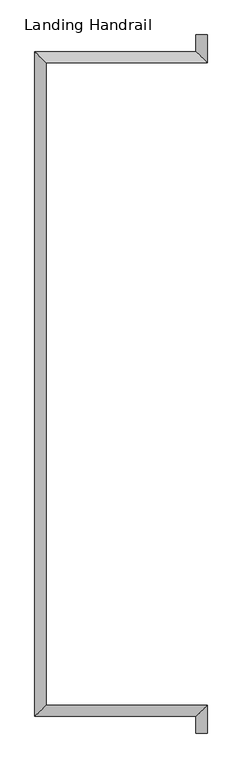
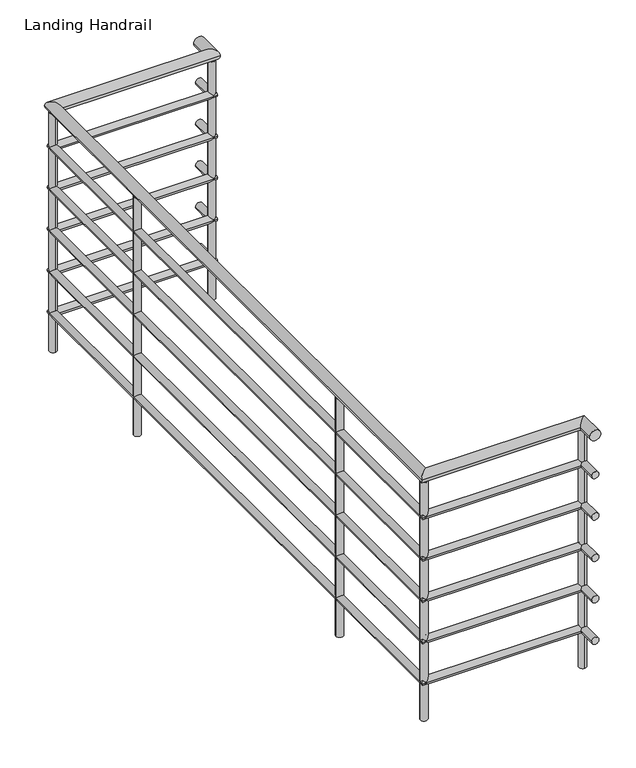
"""IFC4 building model written with IfcOpenShell, lengths in millimetres: railing geometry, Landing Handrail."""

from ifc_helpers import new_model, si_unit, point, frame, frame_2d, origin, place, context, project, spatial, circle_curve, ellipse_curve, trimmed, segment, composite_curve, outline, extrude, source, transform, mapped, element, save
from ifc_brep_helpers import plane_surface, cylinder_surface, advanced_brep


def landing_handrail_151fd10d(model_context):
    return source(origin(), model_context, "Body", "SolidModel", [
        advanced_brep(
        [(-21892.662755, 6565.7487109, 6381.75), (-21854.562755, 6527.6487109, 6381.75), (-22407.012755, 6527.6487109, 6381.75), (-22445.112755, 6565.7487109, 6381.75), (-22407.012755, 4330.5487109, 6381.75), (-22445.112755, 4292.4487109, 6381.75), (-21854.562755, 4330.5487109, 6381.75), (-21892.662755, 4292.4487109, 6381.75), (-21854.562755, 6622.8987109, 6381.75), (-21892.662755, 6622.8987109, 6381.75), (-21854.562755, 4235.2987109, 6381.75), (-21892.662755, 4235.2987109, 6381.75)],
        [
            (0, 1, ellipse_curve(frame((-21873.612755, 6546.6987109, 6381.75), z_axis=(-0.7071067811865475, -0.7071067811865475, 0.0), x_axis=(0.7071067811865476, -0.7071067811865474, 0.0)), 26.9407684, 19.05)),
            (1, 2),
            (2, 3, ellipse_curve(frame((-22426.062755, 6546.6987109, 6381.75), z_axis=(0.7071067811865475, 0.7071067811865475, 0.0), x_axis=(0.7071067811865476, -0.7071067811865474, 0.0)), 26.9407684, 19.05)),
            (3, 0),
            (1, 0, ellipse_curve(frame((-21873.612755, 6546.6987109, 6381.75), z_axis=(-0.7071067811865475, -0.7071067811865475, 0.0), x_axis=(0.7071067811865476, -0.7071067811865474, 0.0)), 26.9407684, 19.05)),
            (3, 2, ellipse_curve(frame((-22426.062755, 6546.6987109, 6381.75), z_axis=(0.7071067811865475, 0.7071067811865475, 0.0), x_axis=(0.7071067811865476, -0.7071067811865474, 0.0)), 26.9407684, 19.05)),
            (2, 4),
            (4, 5, ellipse_curve(frame((-22426.062755, 4311.4987109, 6381.75), z_axis=(-0.7071067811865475, 0.7071067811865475, 0.0), x_axis=(0.7071067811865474, 0.7071067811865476, 0.0)), 26.9407684, 19.05)),
            (5, 3),
            (5, 4, ellipse_curve(frame((-22426.062755, 4311.4987109, 6381.75), z_axis=(-0.7071067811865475, 0.7071067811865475, 0.0), x_axis=(0.7071067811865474, 0.7071067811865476, 0.0)), 26.9407684, 19.05)),
            (4, 6),
            (6, 7, ellipse_curve(frame((-21873.612755, 4311.4987109, 6381.75), z_axis=(-0.7071067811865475, 0.7071067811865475, 0.0), x_axis=(-0.7071067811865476, -0.7071067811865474, 0.0)), 26.9407684, 19.05)),
            (7, 5),
            (7, 6, ellipse_curve(frame((-21873.612755, 4311.4987109, 6381.75), z_axis=(-0.7071067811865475, 0.7071067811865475, 0.0), x_axis=(-0.7071067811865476, -0.7071067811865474, 0.0)), 26.9407684, 19.05)),
            (8, 9, circle_curve(frame((-21873.612755, 6622.8987109, 6381.75), z_axis=(0.0, 1.0, 0.0), x_axis=(-1.0, 0.0, 0.0)), 19.05)),
            (9, 8, circle_curve(frame((-21873.612755, 6622.8987109, 6381.75), z_axis=(0.0, 1.0, 0.0), x_axis=(-1.0, 0.0, 0.0)), 19.05)),
            (8, 1),
            (0, 9),
            (10, 11, circle_curve(frame((-21873.612755, 4235.2987109, 6381.75), z_axis=(0.0, -1.0, 0.0), x_axis=(-1.0, 0.0, 0.0)), 19.05)),
            (11, 10, circle_curve(frame((-21873.612755, 4235.2987109, 6381.75), z_axis=(0.0, -1.0, 0.0), x_axis=(-1.0, 0.0, 0.0)), 19.05)),
            (6, 10),
            (11, 7),
        ],
        [
            cylinder_surface(frame((-21873.612755, 6546.6987109, 6381.75), z_axis=(1.0, 0.0, 0.0), x_axis=(0.0, 1.0, 0.0)), 19.05),
            cylinder_surface(frame((-22426.062755, 6546.6987109, 6381.75), z_axis=(0.0, 1.0, 0.0), x_axis=(-1.0, 0.0, 0.0)), 19.05),
            cylinder_surface(frame((-22426.062755, 4311.4987109, 6381.75), z_axis=(-1.0, 0.0, 0.0), x_axis=(0.0, -1.0, 0.0)), 19.05),
            plane_surface(frame((-21873.612755, 6622.8987109, 6400.8), z_axis=(0.0, 1.0, 0.0), x_axis=(0.0, 0.0, -1.0))),
            cylinder_surface(frame((-21873.612755, 6622.8987109, 6381.75), z_axis=(0.0, 1.0, 0.0), x_axis=(-1.0, 0.0, 0.0)), 19.05),
            plane_surface(frame((-21873.612755, 4235.2987109, 6400.8), z_axis=(0.0, -1.0, 0.0), x_axis=(0.0, 0.0, -1.0))),
            cylinder_surface(frame((-21873.612755, 4311.4987109, 6381.75), z_axis=(0.0, 1.0, 0.0), x_axis=(-1.0, 0.0, 0.0)), 19.05),
        ],
        [
            (0, [[1, 2, 3, 4]]),
            (0, [[5, -4, 6, -2]]),
            (1, [[-3, 7, 8, 9]]),
            (1, [[-6, -9, 10, -7]]),
            (2, [[-8, 11, 12, 13]]),
            (2, [[-10, -13, 14, -11]]),
            (3, [[15, 16]]),
            (4, [[-15, 17, -1, 18]]),
            (4, [[-16, -18, -5, -17]]),
            (5, [[19, 20]]),
            (6, [[-12, 21, -20, 22]]),
            (6, [[-14, -22, -19, -21]]),
        ],
    ),
        advanced_brep(
        [(-21886.312755, 6559.3987109, 6235.7), (-21860.912755, 6533.9987109, 6235.7), (-22413.362755, 6533.9987109, 6235.7), (-22438.762755, 6559.3987109, 6235.7), (-22413.362755, 4324.1987109, 6235.7), (-22438.762755, 4298.7987109, 6235.7), (-21860.912755, 4324.1987109, 6235.7), (-21886.312755, 4298.7987109, 6235.7), (-21860.912755, 6622.8987109, 6235.7), (-21886.312755, 6622.8987109, 6235.7), (-21860.912755, 4235.2987109, 6235.7), (-21886.312755, 4235.2987109, 6235.7)],
        [
            (0, 1, ellipse_curve(frame((-21873.612755, 6546.6987109, 6235.7), z_axis=(-0.7071067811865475, -0.7071067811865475, 0.0), x_axis=(0.7071067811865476, -0.7071067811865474, 0.0)), 17.9605122, 12.7)),
            (1, 2),
            (2, 3, ellipse_curve(frame((-22426.062755, 6546.6987109, 6235.7), z_axis=(0.7071067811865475, 0.7071067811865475, 0.0), x_axis=(0.7071067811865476, -0.7071067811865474, 0.0)), 17.9605122, 12.7)),
            (3, 0),
            (1, 0, ellipse_curve(frame((-21873.612755, 6546.6987109, 6235.7), z_axis=(-0.7071067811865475, -0.7071067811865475, 0.0), x_axis=(0.7071067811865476, -0.7071067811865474, 0.0)), 17.9605122, 12.7)),
            (3, 2, ellipse_curve(frame((-22426.062755, 6546.6987109, 6235.7), z_axis=(0.7071067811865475, 0.7071067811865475, 0.0), x_axis=(0.7071067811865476, -0.7071067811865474, 0.0)), 17.9605122, 12.7)),
            (2, 4),
            (4, 5, ellipse_curve(frame((-22426.062755, 4311.4987109, 6235.7), z_axis=(-0.7071067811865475, 0.7071067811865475, 0.0), x_axis=(0.7071067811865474, 0.7071067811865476, 0.0)), 17.9605122, 12.7)),
            (5, 3),
            (5, 4, ellipse_curve(frame((-22426.062755, 4311.4987109, 6235.7), z_axis=(-0.7071067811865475, 0.7071067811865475, 0.0), x_axis=(0.7071067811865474, 0.7071067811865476, 0.0)), 17.9605122, 12.7)),
            (4, 6),
            (6, 7, ellipse_curve(frame((-21873.612755, 4311.4987109, 6235.7), z_axis=(-0.7071067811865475, 0.7071067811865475, 0.0), x_axis=(-0.7071067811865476, -0.7071067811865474, 0.0)), 17.9605122, 12.7)),
            (7, 5),
            (7, 6, ellipse_curve(frame((-21873.612755, 4311.4987109, 6235.7), z_axis=(-0.7071067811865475, 0.7071067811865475, 0.0), x_axis=(-0.7071067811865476, -0.7071067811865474, 0.0)), 17.9605122, 12.7)),
            (8, 9, circle_curve(frame((-21873.612755, 6622.8987109, 6235.7), z_axis=(0.0, 1.0, 0.0), x_axis=(-1.0, 0.0, 0.0)), 12.7)),
            (9, 8, circle_curve(frame((-21873.612755, 6622.8987109, 6235.7), z_axis=(0.0, 1.0, 0.0), x_axis=(-1.0, 0.0, 0.0)), 12.7)),
            (8, 1),
            (0, 9),
            (10, 11, circle_curve(frame((-21873.612755, 4235.2987109, 6235.7), z_axis=(0.0, -1.0, 0.0), x_axis=(-1.0, 0.0, 0.0)), 12.7)),
            (11, 10, circle_curve(frame((-21873.612755, 4235.2987109, 6235.7), z_axis=(0.0, -1.0, 0.0), x_axis=(-1.0, 0.0, 0.0)), 12.7)),
            (6, 10),
            (11, 7),
        ],
        [
            cylinder_surface(frame((-21873.612755, 6546.6987109, 6235.7), z_axis=(1.0, 0.0, 0.0), x_axis=(0.0, 1.0, 0.0)), 12.7),
            cylinder_surface(frame((-22426.062755, 6546.6987109, 6235.7), z_axis=(0.0, 1.0, 0.0), x_axis=(-1.0, 0.0, 0.0)), 12.7),
            cylinder_surface(frame((-22426.062755, 4311.4987109, 6235.7), z_axis=(-1.0, 0.0, 0.0), x_axis=(0.0, -1.0, 0.0)), 12.7),
            plane_surface(frame((-21873.612755, 6622.8987109, 6248.4), z_axis=(0.0, 1.0, 0.0), x_axis=(0.0, 0.0, -1.0))),
            cylinder_surface(frame((-21873.612755, 6622.8987109, 6235.7), z_axis=(0.0, 1.0, 0.0), x_axis=(-1.0, 0.0, 0.0)), 12.7),
            plane_surface(frame((-21873.612755, 4235.2987109, 6248.4), z_axis=(0.0, -1.0, 0.0), x_axis=(0.0, 0.0, -1.0))),
            cylinder_surface(frame((-21873.612755, 4311.4987109, 6235.7), z_axis=(0.0, 1.0, 0.0), x_axis=(-1.0, 0.0, 0.0)), 12.7),
        ],
        [
            (0, [[1, 2, 3, 4]]),
            (0, [[5, -4, 6, -2]]),
            (1, [[-3, 7, 8, 9]]),
            (1, [[-6, -9, 10, -7]]),
            (2, [[-8, 11, 12, 13]]),
            (2, [[-10, -13, 14, -11]]),
            (3, [[15, 16]]),
            (4, [[-15, 17, -1, 18]]),
            (4, [[-16, -18, -5, -17]]),
            (5, [[19, 20]]),
            (6, [[-12, 21, -20, 22]]),
            (6, [[-14, -22, -19, -21]]),
        ],
    ),
        advanced_brep(
        [(-21886.312755, 6559.3987109, 6083.3), (-21860.912755, 6533.9987109, 6083.3), (-22413.362755, 6533.9987109, 6083.3), (-22438.762755, 6559.3987109, 6083.3), (-22413.362755, 4324.1987109, 6083.3), (-22438.762755, 4298.7987109, 6083.3), (-21860.912755, 4324.1987109, 6083.3), (-21886.312755, 4298.7987109, 6083.3), (-21860.912755, 6622.8987109, 6083.3), (-21886.312755, 6622.8987109, 6083.3), (-21860.912755, 4235.2987109, 6083.3), (-21886.312755, 4235.2987109, 6083.3)],
        [
            (0, 1, ellipse_curve(frame((-21873.612755, 6546.6987109, 6083.3), z_axis=(-0.7071067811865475, -0.7071067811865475, 0.0), x_axis=(0.7071067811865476, -0.7071067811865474, 0.0)), 17.9605122, 12.7)),
            (1, 2),
            (2, 3, ellipse_curve(frame((-22426.062755, 6546.6987109, 6083.3), z_axis=(0.7071067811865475, 0.7071067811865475, 0.0), x_axis=(0.7071067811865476, -0.7071067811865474, 0.0)), 17.9605122, 12.7)),
            (3, 0),
            (1, 0, ellipse_curve(frame((-21873.612755, 6546.6987109, 6083.3), z_axis=(-0.7071067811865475, -0.7071067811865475, 0.0), x_axis=(0.7071067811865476, -0.7071067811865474, 0.0)), 17.9605122, 12.7)),
            (3, 2, ellipse_curve(frame((-22426.062755, 6546.6987109, 6083.3), z_axis=(0.7071067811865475, 0.7071067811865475, 0.0), x_axis=(0.7071067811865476, -0.7071067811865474, 0.0)), 17.9605122, 12.7)),
            (2, 4),
            (4, 5, ellipse_curve(frame((-22426.062755, 4311.4987109, 6083.3), z_axis=(-0.7071067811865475, 0.7071067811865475, 0.0), x_axis=(0.7071067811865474, 0.7071067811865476, 0.0)), 17.9605122, 12.7)),
            (5, 3),
            (5, 4, ellipse_curve(frame((-22426.062755, 4311.4987109, 6083.3), z_axis=(-0.7071067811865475, 0.7071067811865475, 0.0), x_axis=(0.7071067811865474, 0.7071067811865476, 0.0)), 17.9605122, 12.7)),
            (4, 6),
            (6, 7, ellipse_curve(frame((-21873.612755, 4311.4987109, 6083.3), z_axis=(-0.7071067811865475, 0.7071067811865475, 0.0), x_axis=(-0.7071067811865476, -0.7071067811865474, 0.0)), 17.9605122, 12.7)),
            (7, 5),
            (7, 6, ellipse_curve(frame((-21873.612755, 4311.4987109, 6083.3), z_axis=(-0.7071067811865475, 0.7071067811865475, 0.0), x_axis=(-0.7071067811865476, -0.7071067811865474, 0.0)), 17.9605122, 12.7)),
            (8, 9, circle_curve(frame((-21873.612755, 6622.8987109, 6083.3), z_axis=(0.0, 1.0, 0.0), x_axis=(-1.0, 0.0, 0.0)), 12.7)),
            (9, 8, circle_curve(frame((-21873.612755, 6622.8987109, 6083.3), z_axis=(0.0, 1.0, 0.0), x_axis=(-1.0, 0.0, 0.0)), 12.7)),
            (8, 1),
            (0, 9),
            (10, 11, circle_curve(frame((-21873.612755, 4235.2987109, 6083.3), z_axis=(0.0, -1.0, 0.0), x_axis=(-1.0, 0.0, 0.0)), 12.7)),
            (11, 10, circle_curve(frame((-21873.612755, 4235.2987109, 6083.3), z_axis=(0.0, -1.0, 0.0), x_axis=(-1.0, 0.0, 0.0)), 12.7)),
            (6, 10),
            (11, 7),
        ],
        [
            cylinder_surface(frame((-21873.612755, 6546.6987109, 6083.3), z_axis=(1.0, 0.0, 0.0), x_axis=(0.0, 1.0, 0.0)), 12.7),
            cylinder_surface(frame((-22426.062755, 6546.6987109, 6083.3), z_axis=(0.0, 1.0, 0.0), x_axis=(-1.0, 0.0, 0.0)), 12.7),
            cylinder_surface(frame((-22426.062755, 4311.4987109, 6083.3), z_axis=(-1.0, 0.0, 0.0), x_axis=(0.0, -1.0, 0.0)), 12.7),
            plane_surface(frame((-21873.612755, 6622.8987109, 6096.0), z_axis=(0.0, 1.0, 0.0), x_axis=(0.0, 0.0, -1.0))),
            cylinder_surface(frame((-21873.612755, 6622.8987109, 6083.3), z_axis=(0.0, 1.0, 0.0), x_axis=(-1.0, 0.0, 0.0)), 12.7),
            plane_surface(frame((-21873.612755, 4235.2987109, 6096.0), z_axis=(0.0, -1.0, 0.0), x_axis=(0.0, 0.0, -1.0))),
            cylinder_surface(frame((-21873.612755, 4311.4987109, 6083.3), z_axis=(0.0, 1.0, 0.0), x_axis=(-1.0, 0.0, 0.0)), 12.7),
        ],
        [
            (0, [[1, 2, 3, 4]]),
            (0, [[5, -4, 6, -2]]),
            (1, [[-3, 7, 8, 9]]),
            (1, [[-6, -9, 10, -7]]),
            (2, [[-8, 11, 12, 13]]),
            (2, [[-10, -13, 14, -11]]),
            (3, [[15, 16]]),
            (4, [[-15, 17, -1, 18]]),
            (4, [[-16, -18, -5, -17]]),
            (5, [[19, 20]]),
            (6, [[-12, 21, -20, 22]]),
            (6, [[-14, -22, -19, -21]]),
        ],
    ),
        advanced_brep(
        [(-21886.312755, 6559.3987109, 5930.9), (-21860.912755, 6533.9987109, 5930.9), (-22413.362755, 6533.9987109, 5930.9), (-22438.762755, 6559.3987109, 5930.9), (-22413.362755, 4324.1987109, 5930.9), (-22438.762755, 4298.7987109, 5930.9), (-21860.912755, 4324.1987109, 5930.9), (-21886.312755, 4298.7987109, 5930.9), (-21860.912755, 6622.8987109, 5930.9), (-21886.312755, 6622.8987109, 5930.9), (-21860.912755, 4235.2987109, 5930.9), (-21886.312755, 4235.2987109, 5930.9)],
        [
            (0, 1, ellipse_curve(frame((-21873.612755, 6546.6987109, 5930.9), z_axis=(-0.7071067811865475, -0.7071067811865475, 0.0), x_axis=(0.7071067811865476, -0.7071067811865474, 0.0)), 17.9605122, 12.7)),
            (1, 2),
            (2, 3, ellipse_curve(frame((-22426.062755, 6546.6987109, 5930.9), z_axis=(0.7071067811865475, 0.7071067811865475, 0.0), x_axis=(0.7071067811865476, -0.7071067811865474, 0.0)), 17.9605122, 12.7)),
            (3, 0),
            (1, 0, ellipse_curve(frame((-21873.612755, 6546.6987109, 5930.9), z_axis=(-0.7071067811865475, -0.7071067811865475, 0.0), x_axis=(0.7071067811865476, -0.7071067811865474, 0.0)), 17.9605122, 12.7)),
            (3, 2, ellipse_curve(frame((-22426.062755, 6546.6987109, 5930.9), z_axis=(0.7071067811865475, 0.7071067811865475, 0.0), x_axis=(0.7071067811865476, -0.7071067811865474, 0.0)), 17.9605122, 12.7)),
            (2, 4),
            (4, 5, ellipse_curve(frame((-22426.062755, 4311.4987109, 5930.9), z_axis=(-0.7071067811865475, 0.7071067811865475, 0.0), x_axis=(0.7071067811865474, 0.7071067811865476, 0.0)), 17.9605122, 12.7)),
            (5, 3),
            (5, 4, ellipse_curve(frame((-22426.062755, 4311.4987109, 5930.9), z_axis=(-0.7071067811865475, 0.7071067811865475, 0.0), x_axis=(0.7071067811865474, 0.7071067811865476, 0.0)), 17.9605122, 12.7)),
            (4, 6),
            (6, 7, ellipse_curve(frame((-21873.612755, 4311.4987109, 5930.9), z_axis=(-0.7071067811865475, 0.7071067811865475, 0.0), x_axis=(-0.7071067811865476, -0.7071067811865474, 0.0)), 17.9605122, 12.7)),
            (7, 5),
            (7, 6, ellipse_curve(frame((-21873.612755, 4311.4987109, 5930.9), z_axis=(-0.7071067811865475, 0.7071067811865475, 0.0), x_axis=(-0.7071067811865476, -0.7071067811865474, 0.0)), 17.9605122, 12.7)),
            (8, 9, circle_curve(frame((-21873.612755, 6622.8987109, 5930.9), z_axis=(0.0, 1.0, 0.0), x_axis=(-1.0, 0.0, 0.0)), 12.7)),
            (9, 8, circle_curve(frame((-21873.612755, 6622.8987109, 5930.9), z_axis=(0.0, 1.0, 0.0), x_axis=(-1.0, 0.0, 0.0)), 12.7)),
            (8, 1),
            (0, 9),
            (10, 11, circle_curve(frame((-21873.612755, 4235.2987109, 5930.9), z_axis=(0.0, -1.0, 0.0), x_axis=(-1.0, 0.0, 0.0)), 12.7)),
            (11, 10, circle_curve(frame((-21873.612755, 4235.2987109, 5930.9), z_axis=(0.0, -1.0, 0.0), x_axis=(-1.0, 0.0, 0.0)), 12.7)),
            (6, 10),
            (11, 7),
        ],
        [
            cylinder_surface(frame((-21873.612755, 6546.6987109, 5930.9), z_axis=(1.0, 0.0, 0.0), x_axis=(0.0, 1.0, 0.0)), 12.7),
            cylinder_surface(frame((-22426.062755, 6546.6987109, 5930.9), z_axis=(0.0, 1.0, 0.0), x_axis=(-1.0, 0.0, 0.0)), 12.7),
            cylinder_surface(frame((-22426.062755, 4311.4987109, 5930.9), z_axis=(-1.0, 0.0, 0.0), x_axis=(0.0, -1.0, 0.0)), 12.7),
            plane_surface(frame((-21873.612755, 6622.8987109, 5943.6), z_axis=(0.0, 1.0, 0.0), x_axis=(0.0, 0.0, -1.0))),
            cylinder_surface(frame((-21873.612755, 6622.8987109, 5930.9), z_axis=(0.0, 1.0, 0.0), x_axis=(-1.0, 0.0, 0.0)), 12.7),
            plane_surface(frame((-21873.612755, 4235.2987109, 5943.6), z_axis=(0.0, -1.0, 0.0), x_axis=(0.0, 0.0, -1.0))),
            cylinder_surface(frame((-21873.612755, 4311.4987109, 5930.9), z_axis=(0.0, 1.0, 0.0), x_axis=(-1.0, 0.0, 0.0)), 12.7),
        ],
        [
            (0, [[1, 2, 3, 4]]),
            (0, [[5, -4, 6, -2]]),
            (1, [[-3, 7, 8, 9]]),
            (1, [[-6, -9, 10, -7]]),
            (2, [[-8, 11, 12, 13]]),
            (2, [[-10, -13, 14, -11]]),
            (3, [[15, 16]]),
            (4, [[-15, 17, -1, 18]]),
            (4, [[-16, -18, -5, -17]]),
            (5, [[19, 20]]),
            (6, [[-12, 21, -20, 22]]),
            (6, [[-14, -22, -19, -21]]),
        ],
    ),
        advanced_brep(
        [(-21886.312755, 6559.3987109, 5778.5), (-21860.912755, 6533.9987109, 5778.5), (-22413.362755, 6533.9987109, 5778.5), (-22438.762755, 6559.3987109, 5778.5), (-22413.362755, 4324.1987109, 5778.5), (-22438.762755, 4298.7987109, 5778.5), (-21860.912755, 4324.1987109, 5778.5), (-21886.312755, 4298.7987109, 5778.5), (-21860.912755, 6622.8987109, 5778.5), (-21886.312755, 6622.8987109, 5778.5), (-21860.912755, 4235.2987109, 5778.5), (-21886.312755, 4235.2987109, 5778.5)],
        [
            (0, 1, ellipse_curve(frame((-21873.612755, 6546.6987109, 5778.5), z_axis=(-0.7071067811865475, -0.7071067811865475, 0.0), x_axis=(0.7071067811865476, -0.7071067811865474, 0.0)), 17.9605122, 12.7)),
            (1, 2),
            (2, 3, ellipse_curve(frame((-22426.062755, 6546.6987109, 5778.5), z_axis=(0.7071067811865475, 0.7071067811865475, 0.0), x_axis=(0.7071067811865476, -0.7071067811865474, 0.0)), 17.9605122, 12.7)),
            (3, 0),
            (1, 0, ellipse_curve(frame((-21873.612755, 6546.6987109, 5778.5), z_axis=(-0.7071067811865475, -0.7071067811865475, 0.0), x_axis=(0.7071067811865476, -0.7071067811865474, 0.0)), 17.9605122, 12.7)),
            (3, 2, ellipse_curve(frame((-22426.062755, 6546.6987109, 5778.5), z_axis=(0.7071067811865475, 0.7071067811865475, 0.0), x_axis=(0.7071067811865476, -0.7071067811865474, 0.0)), 17.9605122, 12.7)),
            (2, 4),
            (4, 5, ellipse_curve(frame((-22426.062755, 4311.4987109, 5778.5), z_axis=(-0.7071067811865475, 0.7071067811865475, 0.0), x_axis=(0.7071067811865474, 0.7071067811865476, 0.0)), 17.9605122, 12.7)),
            (5, 3),
            (5, 4, ellipse_curve(frame((-22426.062755, 4311.4987109, 5778.5), z_axis=(-0.7071067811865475, 0.7071067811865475, 0.0), x_axis=(0.7071067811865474, 0.7071067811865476, 0.0)), 17.9605122, 12.7)),
            (4, 6),
            (6, 7, ellipse_curve(frame((-21873.612755, 4311.4987109, 5778.5), z_axis=(-0.7071067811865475, 0.7071067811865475, 0.0), x_axis=(-0.7071067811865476, -0.7071067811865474, 0.0)), 17.9605122, 12.7)),
            (7, 5),
            (7, 6, ellipse_curve(frame((-21873.612755, 4311.4987109, 5778.5), z_axis=(-0.7071067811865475, 0.7071067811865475, 0.0), x_axis=(-0.7071067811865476, -0.7071067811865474, 0.0)), 17.9605122, 12.7)),
            (8, 9, circle_curve(frame((-21873.612755, 6622.8987109, 5778.5), z_axis=(0.0, 1.0, 0.0), x_axis=(-1.0, 0.0, 0.0)), 12.7)),
            (9, 8, circle_curve(frame((-21873.612755, 6622.8987109, 5778.5), z_axis=(0.0, 1.0, 0.0), x_axis=(-1.0, 0.0, 0.0)), 12.7)),
            (8, 1),
            (0, 9),
            (10, 11, circle_curve(frame((-21873.612755, 4235.2987109, 5778.5), z_axis=(0.0, -1.0, 0.0), x_axis=(-1.0, 0.0, 0.0)), 12.7)),
            (11, 10, circle_curve(frame((-21873.612755, 4235.2987109, 5778.5), z_axis=(0.0, -1.0, 0.0), x_axis=(-1.0, 0.0, 0.0)), 12.7)),
            (6, 10),
            (11, 7),
        ],
        [
            cylinder_surface(frame((-21873.612755, 6546.6987109, 5778.5), z_axis=(1.0, 0.0, 0.0), x_axis=(0.0, 1.0, 0.0)), 12.7),
            cylinder_surface(frame((-22426.062755, 6546.6987109, 5778.5), z_axis=(0.0, 1.0, 0.0), x_axis=(-1.0, 0.0, 0.0)), 12.7),
            cylinder_surface(frame((-22426.062755, 4311.4987109, 5778.5), z_axis=(-1.0, 0.0, 0.0), x_axis=(0.0, -1.0, 0.0)), 12.7),
            plane_surface(frame((-21873.612755, 6622.8987109, 5791.2), z_axis=(0.0, 1.0, 0.0), x_axis=(0.0, 0.0, -1.0))),
            cylinder_surface(frame((-21873.612755, 6622.8987109, 5778.5), z_axis=(0.0, 1.0, 0.0), x_axis=(-1.0, 0.0, 0.0)), 12.7),
            plane_surface(frame((-21873.612755, 4235.2987109, 5791.2), z_axis=(0.0, -1.0, 0.0), x_axis=(0.0, 0.0, -1.0))),
            cylinder_surface(frame((-21873.612755, 4311.4987109, 5778.5), z_axis=(0.0, 1.0, 0.0), x_axis=(-1.0, 0.0, 0.0)), 12.7),
        ],
        [
            (0, [[1, 2, 3, 4]]),
            (0, [[5, -4, 6, -2]]),
            (1, [[-3, 7, 8, 9]]),
            (1, [[-6, -9, 10, -7]]),
            (2, [[-8, 11, 12, 13]]),
            (2, [[-10, -13, 14, -11]]),
            (3, [[15, 16]]),
            (4, [[-15, 17, -1, 18]]),
            (4, [[-16, -18, -5, -17]]),
            (5, [[19, 20]]),
            (6, [[-12, 21, -20, 22]]),
            (6, [[-14, -22, -19, -21]]),
        ],
    ),
        advanced_brep(
        [(-21886.312755, 6559.3987109, 5626.1), (-21860.912755, 6533.9987109, 5626.1), (-22413.362755, 6533.9987109, 5626.1), (-22438.762755, 6559.3987109, 5626.1), (-22413.362755, 4324.1987109, 5626.1), (-22438.762755, 4298.7987109, 5626.1), (-21860.912755, 4324.1987109, 5626.1), (-21886.312755, 4298.7987109, 5626.1), (-21860.912755, 6622.8987109, 5626.1), (-21886.312755, 6622.8987109, 5626.1), (-21860.912755, 4235.2987109, 5626.1), (-21886.312755, 4235.2987109, 5626.1)],
        [
            (0, 1, ellipse_curve(frame((-21873.612755, 6546.6987109, 5626.1), z_axis=(-0.7071067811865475, -0.7071067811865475, 0.0), x_axis=(0.7071067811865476, -0.7071067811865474, 0.0)), 17.9605122, 12.7)),
            (1, 2),
            (2, 3, ellipse_curve(frame((-22426.062755, 6546.6987109, 5626.1), z_axis=(0.7071067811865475, 0.7071067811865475, 0.0), x_axis=(0.7071067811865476, -0.7071067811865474, 0.0)), 17.9605122, 12.7)),
            (3, 0),
            (1, 0, ellipse_curve(frame((-21873.612755, 6546.6987109, 5626.1), z_axis=(-0.7071067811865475, -0.7071067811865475, 0.0), x_axis=(0.7071067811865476, -0.7071067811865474, 0.0)), 17.9605122, 12.7)),
            (3, 2, ellipse_curve(frame((-22426.062755, 6546.6987109, 5626.1), z_axis=(0.7071067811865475, 0.7071067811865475, 0.0), x_axis=(0.7071067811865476, -0.7071067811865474, 0.0)), 17.9605122, 12.7)),
            (2, 4),
            (4, 5, ellipse_curve(frame((-22426.062755, 4311.4987109, 5626.1), z_axis=(-0.7071067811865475, 0.7071067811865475, 0.0), x_axis=(0.7071067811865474, 0.7071067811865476, 0.0)), 17.9605122, 12.7)),
            (5, 3),
            (5, 4, ellipse_curve(frame((-22426.062755, 4311.4987109, 5626.1), z_axis=(-0.7071067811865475, 0.7071067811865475, 0.0), x_axis=(0.7071067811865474, 0.7071067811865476, 0.0)), 17.9605122, 12.7)),
            (4, 6),
            (6, 7, ellipse_curve(frame((-21873.612755, 4311.4987109, 5626.1), z_axis=(-0.7071067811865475, 0.7071067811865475, 0.0), x_axis=(-0.7071067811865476, -0.7071067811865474, 0.0)), 17.9605122, 12.7)),
            (7, 5),
            (7, 6, ellipse_curve(frame((-21873.612755, 4311.4987109, 5626.1), z_axis=(-0.7071067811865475, 0.7071067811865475, 0.0), x_axis=(-0.7071067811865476, -0.7071067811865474, 0.0)), 17.9605122, 12.7)),
            (8, 9, circle_curve(frame((-21873.612755, 6622.8987109, 5626.1), z_axis=(0.0, 1.0, 0.0), x_axis=(-1.0, 0.0, 0.0)), 12.7)),
            (9, 8, circle_curve(frame((-21873.612755, 6622.8987109, 5626.1), z_axis=(0.0, 1.0, 0.0), x_axis=(-1.0, 0.0, 0.0)), 12.7)),
            (8, 1),
            (0, 9),
            (10, 11, circle_curve(frame((-21873.612755, 4235.2987109, 5626.1), z_axis=(0.0, -1.0, 0.0), x_axis=(-1.0, 0.0, 0.0)), 12.7)),
            (11, 10, circle_curve(frame((-21873.612755, 4235.2987109, 5626.1), z_axis=(0.0, -1.0, 0.0), x_axis=(-1.0, 0.0, 0.0)), 12.7)),
            (6, 10),
            (11, 7),
        ],
        [
            cylinder_surface(frame((-21873.612755, 6546.6987109, 5626.1), z_axis=(1.0, 0.0, 0.0), x_axis=(0.0, 1.0, 0.0)), 12.7),
            cylinder_surface(frame((-22426.062755, 6546.6987109, 5626.1), z_axis=(0.0, 1.0, 0.0), x_axis=(-1.0, 0.0, 0.0)), 12.7),
            cylinder_surface(frame((-22426.062755, 4311.4987109, 5626.1), z_axis=(-1.0, 0.0, 0.0), x_axis=(0.0, -1.0, 0.0)), 12.7),
            plane_surface(frame((-21873.612755, 6622.8987109, 5638.8), z_axis=(0.0, 1.0, 0.0), x_axis=(0.0, 0.0, -1.0))),
            cylinder_surface(frame((-21873.612755, 6622.8987109, 5626.1), z_axis=(0.0, 1.0, 0.0), x_axis=(-1.0, 0.0, 0.0)), 12.7),
            plane_surface(frame((-21873.612755, 4235.2987109, 5638.8), z_axis=(0.0, -1.0, 0.0), x_axis=(0.0, 0.0, -1.0))),
            cylinder_surface(frame((-21873.612755, 4311.4987109, 5626.1), z_axis=(0.0, 1.0, 0.0), x_axis=(-1.0, 0.0, 0.0)), 12.7),
        ],
        [
            (0, [[1, 2, 3, 4]]),
            (0, [[5, -4, 6, -2]]),
            (1, [[-3, 7, 8, 9]]),
            (1, [[-6, -9, 10, -7]]),
            (2, [[-8, 11, 12, 13]]),
            (2, [[-10, -13, 14, -11]]),
            (3, [[15, 16]]),
            (4, [[-15, 17, -1, 18]]),
            (4, [[-16, -18, -5, -17]]),
            (5, [[19, 20]]),
            (6, [[-12, 21, -20, 22]]),
            (6, [[-14, -22, -19, -21]]),
        ],
    ),
        extrude(outline(composite_curve([segment(trimmed(circle_curve(frame_2d((-22426.062755, 4819.4987109)), 12.7), [point((-22413.362755, 4819.4987109))], [point((-22438.762755, 4819.4987109))], False, "CARTESIAN"), True, "CONTINUOUS"), segment(trimmed(circle_curve(frame_2d((-22426.062755, 4819.4987109)), 12.7), [point((-22438.762755, 4819.4987109))], [point((-22413.362755, 4819.4987109))], False, "CARTESIAN"), True, "CONTINUOUS")], self_intersect=False)), frame((0.0, 0.0, 5486.4), z_axis=(0.0, 0.0, 1.0), x_axis=(1.0, 0.0, 0.0)), (0.0, 0.0, 1.0), 876.3),
        extrude(outline(composite_curve([segment(trimmed(circle_curve(frame_2d((-22426.062755, 6038.6987109)), 12.7), [point((-22413.362755, 6038.6987109))], [point((-22438.762755, 6038.6987109))], False, "CARTESIAN"), True, "CONTINUOUS"), segment(trimmed(circle_curve(frame_2d((-22426.062755, 6038.6987109)), 12.7), [point((-22438.762755, 6038.6987109))], [point((-22413.362755, 6038.6987109))], False, "CARTESIAN"), True, "CONTINUOUS")], self_intersect=False)), frame((0.0, 0.0, 5486.4), z_axis=(0.0, 0.0, 1.0), x_axis=(1.0, 0.0, 0.0)), (0.0, 0.0, 1.0), 876.3),
        extrude(outline(composite_curve([segment(trimmed(circle_curve(frame_2d((-21873.612755, 4311.4987109)), 12.7), [point((-21873.612755, 4324.1987109))], [point((-21873.612755, 4298.7987109))], False, "CARTESIAN"), True, "CONTINUOUS"), segment(trimmed(circle_curve(frame_2d((-21873.612755, 4311.4987109)), 12.7), [point((-21873.612755, 4298.7987109))], [point((-21873.612755, 4324.1987109))], False, "CARTESIAN"), True, "CONTINUOUS")], self_intersect=False)), frame((0.0, 0.0, 5486.4), z_axis=(0.0, 0.0, 1.0), x_axis=(1.0, 0.0, 0.0)), (0.0, 0.0, 1.0), 876.3),
        extrude(outline(composite_curve([segment(trimmed(circle_curve(frame_2d((-22426.062755, 4311.4987109)), 12.7), [point((-22413.362755, 4311.4987109))], [point((-22438.762755, 4311.4987109))], False, "CARTESIAN"), True, "CONTINUOUS"), segment(trimmed(circle_curve(frame_2d((-22426.062755, 4311.4987109)), 12.7), [point((-22438.762755, 4311.4987109))], [point((-22413.362755, 4311.4987109))], False, "CARTESIAN"), True, "CONTINUOUS")], self_intersect=False)), frame((0.0, 0.0, 5486.4), z_axis=(0.0, 0.0, 1.0), x_axis=(1.0, 0.0, 0.0)), (0.0, 0.0, 1.0), 876.3),
        extrude(outline(composite_curve([segment(trimmed(circle_curve(frame_2d((-22426.062755, 6546.6987109)), 12.7), [point((-22426.062755, 6533.9987109))], [point((-22426.062755, 6559.3987109))], False, "CARTESIAN"), True, "CONTINUOUS"), segment(trimmed(circle_curve(frame_2d((-22426.062755, 6546.6987109)), 12.7), [point((-22426.062755, 6559.3987109))], [point((-22426.062755, 6533.9987109))], False, "CARTESIAN"), True, "CONTINUOUS")], self_intersect=False)), frame((0.0, 0.0, 5486.4), z_axis=(0.0, 0.0, 1.0), x_axis=(1.0, 0.0, 0.0)), (0.0, 0.0, 1.0), 876.3),
        extrude(outline(composite_curve([segment(trimmed(circle_curve(frame_2d((-21873.612755, 6546.6987109)), 12.7), [point((-21860.912755, 6546.6987109))], [point((-21886.312755, 6546.6987109))], False, "CARTESIAN"), True, "CONTINUOUS"), segment(trimmed(circle_curve(frame_2d((-21873.612755, 6546.6987109)), 12.7), [point((-21886.312755, 6546.6987109))], [point((-21860.912755, 6546.6987109))], False, "CARTESIAN"), True, "CONTINUOUS")], self_intersect=False)), frame((0.0, 0.0, 5486.4), z_axis=(0.0, 0.0, 1.0), x_axis=(1.0, 0.0, 0.0)), (0.0, 0.0, 1.0), 876.3),
    ])


if __name__ == "__main__":
    model = new_model("IFC4")
    model_context = context("Model", 3, world=origin())
    ifc_project = project(units=[si_unit("LENGTHUNIT", "METRE", prefix="MILLI")], contexts=[model_context])
    site = spatial("IfcSite", under=ifc_project)
    building = spatial("IfcBuilding", under=site)
    placement = place(None, origin())
    landing_handrail_shape = landing_handrail_151fd10d(model_context)
    element("IfcRailing", 1, ObjectType="Landing Handrail", at=placement, inside=building, context=model_context, shape_type="MappedRepresentation", body=[
        mapped(landing_handrail_shape, transform((0.0, 0.0, 0.0), x_axis=(1.0, 0.0, 0.0), y_axis=(0.0, 1.0, 0.0), z_axis=(0.0, 0.0, 1.0))),
    ])
    save(model, "model.ifc")
